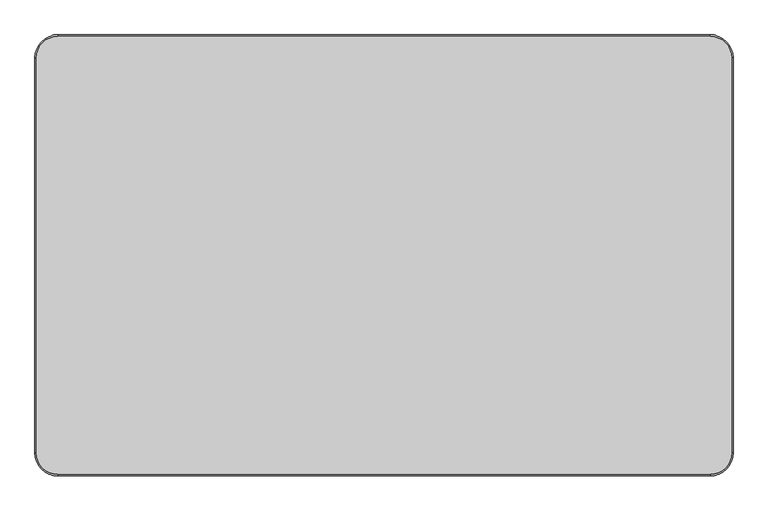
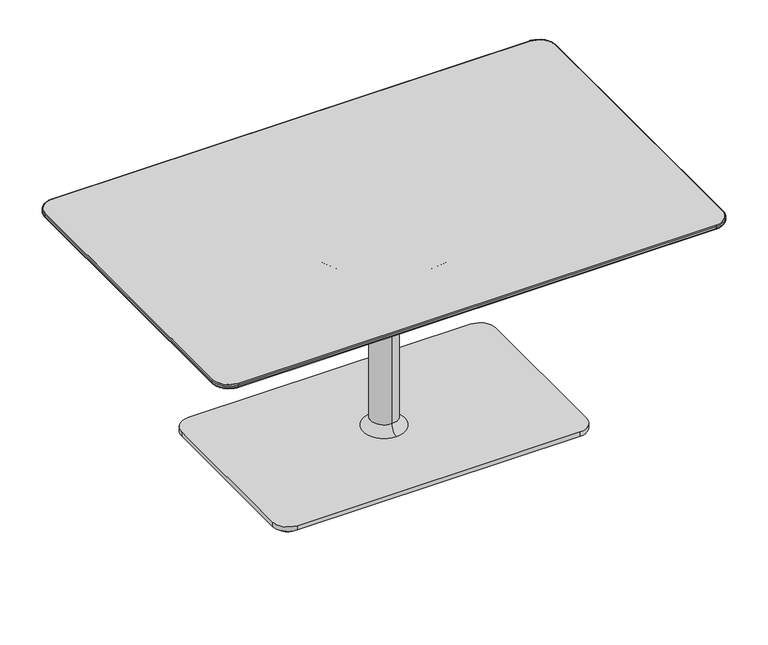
"""IFC4 building model written with IfcOpenShell, lengths in millimetres: furniture geometry, Coalesse_AM_Table_Occasional_Lagunitas_Work : 26H x 36D x 57W."""

from ifc_helpers import new_model, si_unit, point, frame, frame_2d, origin, origin_with_axes, place, context, project, spatial, polyline, circle_curve, ellipse_curve, trimmed, segment, composite_curve, outline, extrude, source, transform, mapped, element, save
from ifc_brep_helpers import plane_surface, cylinder_surface, revolved_surface, spline_surface, advanced_brep


def furniture_2e01fce7(model_context):
    return source(origin(), model_context, "Body", "SolidModel", [
        advanced_brep(
        [(721.1570059, 409.7063839, 648.3724172), (676.7070059, 454.1563839, 648.3724172), (-676.0969941, 454.1563839, 648.3724172), (-720.5469941, 409.7063839, 648.3724172), (-720.5469941, -409.7063839, 648.3724172), (-676.0969941, -454.1563839, 648.3724172), (676.7070059, -454.1563839, 648.3724172), (721.1570059, -409.7063839, 648.3724172), (653.3389826, 386.3390054, 630.3099277), (653.3389826, -386.3390054, 630.3099277), (-652.7289709, -386.3390054, 630.3099277), (-652.7289709, 386.3390054, 630.3099277)],
        [
            (0, 1, circle_curve(frame((676.7070059, 409.7063839, 648.3724172), z_axis=(0.0, 0.0, 1.0), x_axis=(1.0, 0.0, 0.0)), 44.45)),
            (1, 2),
            (2, 3, circle_curve(frame((-676.0969941, 409.7063839, 648.3724172), z_axis=(0.0, 0.0, 1.0), x_axis=(1.0, 0.0, 0.0)), 44.45)),
            (3, 4),
            (4, 5, circle_curve(frame((-676.0969941, -409.7063839, 648.3724172), z_axis=(0.0, 0.0, 1.0), x_axis=(1.0, 0.0, 0.0)), 44.45)),
            (5, 6),
            (6, 7, circle_curve(frame((676.7070059, -409.7063839, 648.3724172), z_axis=(0.0, 0.0, 1.0), x_axis=(1.0, 0.0, 0.0)), 44.45)),
            (7, 0),
            (8, 9),
            (9, 10),
            (10, 11),
            (11, 8),
            (0, 8),
            (8, 1),
            (11, 2),
            (11, 3),
            (10, 4),
            (10, 5),
            (9, 6),
            (9, 7),
        ],
        [
            plane_surface(frame((0.3050059, 0.0, 648.3724172), z_axis=(0.0, 0.0, 1.0), x_axis=(-1.0, 0.0, 0.0))),
            plane_surface(frame((0.3050059, 0.0, 630.3099277), z_axis=(0.0, 0.0, -1.0), x_axis=(-1.0, 0.0, 0.0))),
            spline_surface(2, 1, [[(653.3389826, 386.3390054, 630.3099277), (721.1570059, 409.7063839, 648.3724172)], [(653.3389826, 386.3390054, 630.3099277), (721.1570058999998, 454.1563838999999, 648.3724172)], [(653.3389826, 386.3390054, 630.3099277), (676.7070059, 454.1563839, 648.3724172)]], [3, 3], [2, 2], [0.0, 1.0], [0.0, 1.0], weights=[[1.0, 1.0], [0.707106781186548, 0.707106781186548], [1.0, 1.0]]),
            plane_surface(frame((0.3050059, 386.3390054, 630.3099277), z_axis=(0.0, 0.2573680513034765, -0.9663134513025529), x_axis=(-1.0, 0.0, 0.0))),
            spline_surface(2, 1, [[(-652.7289709, 386.3390054, 630.3099277), (-676.0969941, 454.1563839, 648.3724172)], [(-652.7289709, 386.3390054, 630.3099277), (-720.5469940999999, 454.1563838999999, 648.3724172)], [(-652.7289709, 386.3390054, 630.3099277), (-720.5469941, 409.7063839, 648.3724172)]], [3, 3], [2, 2], [0.0, 1.0], [0.0, 1.0], weights=[[1.0, 1.0], [0.707106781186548, 0.707106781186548], [1.0, 1.0]]),
            plane_surface(frame((-652.7289709, 0.0, 630.3099277), z_axis=(-0.2573657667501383, 0.0, -0.9663140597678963), x_axis=(0.0, -1.0, 0.0))),
            spline_surface(2, 1, [[(-652.7289709, -386.3390054, 630.3099277), (-720.5469941, -409.7063839, 648.3724172)], [(-652.7289709, -386.3390054, 630.3099277), (-720.5469941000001, -454.15638390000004, 648.3724172)], [(-652.7289709, -386.3390054, 630.3099277), (-676.0969941, -454.1563839, 648.3724172)]], [3, 3], [2, 2], [0.0, 1.0], [0.0, 1.0], weights=[[1.0, 1.0], [0.7071067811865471, 0.7071067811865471], [1.0, 1.0]]),
            plane_surface(frame((0.3050059, -386.3390054, 630.3099277), z_axis=(0.0, -0.2573680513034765, -0.9663134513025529), x_axis=(1.0, 0.0, 0.0))),
            spline_surface(2, 1, [[(653.3389826, -386.3390054, 630.3099277), (676.7070059, -454.1563839, 648.3724172)], [(653.3389826, -386.3390054, 630.3099277), (721.1570059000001, -454.15638390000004, 648.3724172)], [(653.3389826, -386.3390054, 630.3099277), (721.1570059, -409.7063839, 648.3724172)]], [3, 3], [2, 2], [0.0, 1.0], [0.0, 1.0], weights=[[1.0, 1.0], [0.707106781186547, 0.707106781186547], [1.0, 1.0]]),
            plane_surface(frame((653.3389826, 0.0, 630.3099277), z_axis=(0.2573657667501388, 0.0, -0.9663140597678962), x_axis=(0.0, 1.0, 0.0))),
        ],
        [
            (0, [[1, 2, 3, 4, 5, 6, 7, 8]]),
            (1, [[9, 10, 11, 12]]),
            (2, [[-1, 13, 14]]),
            (3, [[-12, 15, -2, -14]]),
            (4, [[-3, -15, 16]]),
            (5, [[-11, 17, -4, -16]]),
            (6, [[-5, -17, 18]]),
            (7, [[-10, 19, -6, -18]]),
            (8, [[-7, -19, 20]]),
            (9, [[-9, -13, -8, -20]]),
        ],
    ),
        extrude(outline(composite_curve([segment(trimmed(circle_curve(frame_2d((676.7070059, 409.7063839)), 44.45), [point((676.7070059, 454.1563839))], [point((721.1570059, 409.7063839))], False, "CARTESIAN"), True, "CONTINUOUS"), segment(polyline([(721.1570059, 409.7063839), (721.1570059, -409.7063839)]), True, "CONTINUOUS"), segment(trimmed(circle_curve(frame_2d((676.7070059, -409.7063839)), 44.45), [point((721.1570059, -409.7063839))], [point((676.7070059, -454.1563839))], False, "CARTESIAN"), True, "CONTINUOUS"), segment(polyline([(676.7070059, -454.1563839), (-676.0969941, -454.1563839)]), True, "CONTINUOUS"), segment(trimmed(circle_curve(frame_2d((-676.0969941, -409.7063839)), 44.45), [point((-676.0969941, -454.1563839))], [point((-720.5469941, -409.7063839))], False, "CARTESIAN"), True, "CONTINUOUS"), segment(polyline([(-720.5469941, -409.7063839), (-720.5469941, 409.7063839)]), True, "CONTINUOUS"), segment(trimmed(circle_curve(frame_2d((-676.0969941, 409.7063839)), 44.45), [point((-720.5469941, 409.7063839))], [point((-676.0969941, 454.1563839))], False, "CARTESIAN"), True, "CONTINUOUS"), segment(polyline([(-676.0969941, 454.1563839), (676.7070059, 454.1563839)]), True, "CONTINUOUS")], self_intersect=False)), frame((0.0, 0.0, 648.3724172), z_axis=(0.0, 0.0, 1.0), x_axis=(1.0, 0.0, 0.0)), (0.0, 0.0, 1.0), 12.0275828),
        extrude(outline(composite_curve([segment(trimmed(circle_curve(frame_2d((-404.2943146, 226.8029495)), 25.4), [point((-429.6943146, 226.8029495))], [point((-378.8943146, 226.8029495))], False, "CARTESIAN"), True, "CONTINUOUS"), segment(trimmed(circle_curve(frame_2d((-404.2943146, 226.8029495)), 25.4), [point((-378.8943146, 226.8029495))], [point((-429.6943146, 226.8029495))], False, "CARTESIAN"), True, "CONTINUOUS")], self_intersect=False)), origin_with_axes(), (0.0, 0.0, 1.0), 10.6571495),
        extrude(outline(composite_curve([segment(trimmed(circle_curve(frame_2d((404.9043263, 226.8029495)), 25.4), [point((379.5043263, 226.8029495))], [point((430.3043263, 226.8029495))], False, "CARTESIAN"), True, "CONTINUOUS"), segment(trimmed(circle_curve(frame_2d((404.9043263, 226.8029495)), 25.4), [point((430.3043263, 226.8029495))], [point((379.5043263, 226.8029495))], False, "CARTESIAN"), True, "CONTINUOUS")], self_intersect=False)), origin_with_axes(), (0.0, 0.0, 1.0), 10.6571495),
        extrude(outline(composite_curve([segment(trimmed(circle_curve(frame_2d((404.9043263, -226.8029495)), 25.4), [point((379.5043263, -226.8029495))], [point((430.3043263, -226.8029495))], False, "CARTESIAN"), True, "CONTINUOUS"), segment(trimmed(circle_curve(frame_2d((404.9043263, -226.8029495)), 25.4), [point((430.3043263, -226.8029495))], [point((379.5043263, -226.8029495))], False, "CARTESIAN"), True, "CONTINUOUS")], self_intersect=False)), origin_with_axes(), (0.0, 0.0, 1.0), 10.6571495),
        extrude(outline(composite_curve([segment(trimmed(circle_curve(frame_2d((-404.2943146, -226.8029495)), 25.4), [point((-429.6943146, -226.8029495))], [point((-378.8943146, -226.8029495))], False, "CARTESIAN"), True, "CONTINUOUS"), segment(trimmed(circle_curve(frame_2d((-404.2943146, -226.8029495)), 25.4), [point((-378.8943146, -226.8029495))], [point((-429.6943146, -226.8029495))], False, "CARTESIAN"), True, "CONTINUOUS")], self_intersect=False)), origin_with_axes(), (0.0, 0.0, 1.0), 10.6571495),
        extrude(outline(composite_curve([segment(trimmed(circle_curve(frame_2d((400.3550059, 222.2481833)), 44.45), [point((400.3550059, 266.6981833))], [point((444.8050059, 222.2481833))], False, "CARTESIAN"), True, "CONTINUOUS"), segment(polyline([(444.8050059, 222.2481833), (444.8050059, -222.2481833)]), True, "CONTINUOUS"), segment(trimmed(circle_curve(frame_2d((400.3550059, -222.2481833)), 44.45), [point((444.8050059, -222.2481833))], [point((400.3550059, -266.6981833))], False, "CARTESIAN"), True, "CONTINUOUS"), segment(polyline([(400.3550059, -266.6981833), (-399.7449941, -266.6981833)]), True, "CONTINUOUS"), segment(trimmed(circle_curve(frame_2d((-399.7449941, -222.2481833)), 44.45), [point((-399.7449941, -266.6981833))], [point((-444.1949941, -222.2481833))], False, "CARTESIAN"), True, "CONTINUOUS"), segment(polyline([(-444.1949941, -222.2481833), (-444.1949941, 222.2481833)]), True, "CONTINUOUS"), segment(trimmed(circle_curve(frame_2d((-399.7449941, 222.2481833)), 44.45), [point((-444.1949941, 222.2481833))], [point((-399.7449941, 266.6981833))], False, "CARTESIAN"), True, "CONTINUOUS"), segment(polyline([(-399.7449941, 266.6981833), (400.3550059, 266.6981833)]), True, "CONTINUOUS")], self_intersect=False)), frame((0.0, 0.0, 10.6571495), z_axis=(0.0, 0.0, 1.0), x_axis=(1.0, 0.0, 0.0)), (0.0, 0.0, 1.0), 12.7000004),
        advanced_brep(
        [(-723.5930954, 409.7063839, 652.1656816), (-676.0969941, 457.2024852, 652.1656816), (-676.0969941, 454.1563839, 648.3724172), (-720.5469941, 409.7063839, 648.3724172), (-723.5930954, 409.7063839, 657.3538988), (-676.0969941, 457.2024852, 657.3538988), (-720.5469941, 409.7063839, 660.4), (-676.0969941, 454.1563839, 660.4), (-720.5469941, -409.7063839, 648.3724172), (-723.5930954, -409.7063839, 652.1656816), (-723.5930954, -409.7063839, 657.3538988), (-720.5469941, -409.7063839, 660.4), (-676.0969941, -457.2024852, 652.1656816), (-676.0969941, -454.1563839, 648.3724172), (-676.0969941, -457.2024852, 657.3538988), (-676.0969941, -454.1563839, 660.4), (676.7070059, -454.1563839, 648.3724172), (676.7070059, -457.2024852, 652.1656816), (676.7070059, -457.2024852, 657.3538988), (676.7070059, -454.1563839, 660.4), (724.2031071, -409.7063839, 652.1656816), (721.1570059, -409.7063839, 648.3724172), (724.2031071, -409.7063839, 657.3538988), (721.1570059, -409.7063839, 660.4), (721.1570059, 409.7063839, 648.3724172), (724.2031071, 409.7063839, 652.1656816), (724.2031071, 409.7063839, 657.3538988), (721.1570059, 409.7063839, 660.4), (676.7070059, 457.2024852, 652.1656816), (676.7070059, 454.1563839, 648.3724172), (676.7070059, 457.2024852, 657.3538988), (676.7070059, 454.1563839, 660.4)],
        [
            (0, 1, circle_curve(frame((-676.0969941, 409.7063839, 652.1656816), z_axis=(0.0, 0.0, -1.0), x_axis=(0.0, 1.0, 0.0)), 47.4961012)),
            (1, 2, circle_curve(frame((-676.0969941, 453.3175869, 652.1656816), z_axis=(-1.0, 0.0, 0.0), x_axis=(0.0, -1.0, 0.0)), 3.8848983)),
            (2, 3, circle_curve(frame((-676.0969941, 409.7063839, 648.3724172), z_axis=(0.0, 0.0, 1.0), x_axis=(0.0, 1.0, 0.0)), 44.45)),
            (3, 0, circle_curve(frame((-719.7081971, 409.7063839, 652.1656816), z_axis=(0.0, 1.0, 0.0), x_axis=(1.0, 0.0, 0.0)), 3.8848983)),
            (4, 5, circle_curve(frame((-676.0969941, 409.7063839, 657.3538988), z_axis=(0.0, 0.0, -1.0), x_axis=(0.0, 1.0, 0.0)), 47.4961012)),
            (5, 1),
            (0, 4),
            (6, 7, circle_curve(frame((-676.0969941, 409.7063839, 660.4), z_axis=(0.0, 0.0, -1.0), x_axis=(0.0, 1.0, 0.0)), 44.45)),
            (7, 5, circle_curve(frame((-676.0969941, 454.1563839, 657.3538988), z_axis=(-1.0, 0.0, 0.0), x_axis=(0.0, -1.0, 0.0)), 3.0461012)),
            (4, 6, circle_curve(frame((-720.5469941, 409.7063839, 657.3538988), z_axis=(0.0, 1.0, 0.0), x_axis=(1.0, 0.0, 0.0)), 3.0461012)),
            (2, 7),
            (6, 3),
            (3, 8),
            (8, 9, circle_curve(frame((-719.7081971, -409.7063839, 652.1656816), z_axis=(0.0, 1.0, 0.0), x_axis=(1.0, 0.0, 0.0)), 3.8848983)),
            (9, 0),
            (9, 10),
            (10, 4),
            (10, 11, circle_curve(frame((-720.5469941, -409.7063839, 657.3538988), z_axis=(0.0, 1.0, 0.0), x_axis=(1.0, 0.0, 0.0)), 3.0461012)),
            (11, 6),
            (11, 8),
            (12, 9, circle_curve(frame((-676.0969941, -409.7063839, 652.1656816), z_axis=(0.0, 0.0, -1.0), x_axis=(-1.0, 0.0, 0.0)), 47.4961012)),
            (8, 13, circle_curve(frame((-676.0969941, -409.7063839, 648.3724172), z_axis=(0.0, 0.0, 1.0), x_axis=(-1.0, 0.0, 0.0)), 44.45)),
            (13, 12, circle_curve(frame((-676.0969941, -453.3175869, 652.1656816), z_axis=(-1.0, 0.0, 0.0), x_axis=(0.0, 1.0, 0.0)), 3.8848983)),
            (14, 10, circle_curve(frame((-676.0969941, -409.7063839, 657.3538988), z_axis=(0.0, 0.0, -1.0), x_axis=(-1.0, 0.0, 0.0)), 47.4961012)),
            (12, 14),
            (15, 11, circle_curve(frame((-676.0969941, -409.7063839, 660.4), z_axis=(0.0, 0.0, -1.0), x_axis=(-1.0, 0.0, 0.0)), 44.45)),
            (14, 15, circle_curve(frame((-676.0969941, -454.1563839, 657.3538988), z_axis=(-1.0, 0.0, 0.0), x_axis=(0.0, 1.0, 0.0)), 3.0461012)),
            (15, 13),
            (13, 16),
            (16, 17, circle_curve(frame((676.7070059, -453.3175869, 652.1656816), z_axis=(-1.0, 0.0, 0.0), x_axis=(0.0, 1.0, 0.0)), 3.8848983)),
            (17, 12),
            (17, 18),
            (18, 14),
            (18, 19, circle_curve(frame((676.7070059, -454.1563839, 657.3538988), z_axis=(-1.0, 0.0, 0.0), x_axis=(0.0, 1.0, 0.0)), 3.0461012)),
            (19, 15),
            (19, 16),
            (20, 17, circle_curve(frame((676.7070059, -409.7063839, 652.1656816), z_axis=(0.0, 0.0, -1.0), x_axis=(0.0, -1.0, 0.0)), 47.4961012)),
            (16, 21, circle_curve(frame((676.7070059, -409.7063839, 648.3724172), z_axis=(0.0, 0.0, 1.0), x_axis=(0.0, -1.0, 0.0)), 44.45)),
            (21, 20, circle_curve(frame((720.3182088, -409.7063839, 652.1656816), z_axis=(0.0, -1.0, 0.0), x_axis=(-1.0, 0.0, 0.0)), 3.8848983)),
            (22, 18, circle_curve(frame((676.7070059, -409.7063839, 657.3538988), z_axis=(0.0, 0.0, -1.0), x_axis=(0.0, -1.0, 0.0)), 47.4961012)),
            (20, 22),
            (23, 19, circle_curve(frame((676.7070059, -409.7063839, 660.4), z_axis=(0.0, 0.0, -1.0), x_axis=(0.0, -1.0, 0.0)), 44.45)),
            (22, 23, circle_curve(frame((721.1570059, -409.7063839, 657.3538988), z_axis=(0.0, -1.0, 0.0), x_axis=(-1.0, 0.0, 0.0)), 3.0461012)),
            (23, 21),
            (21, 24),
            (24, 25, circle_curve(frame((720.3182088, 409.7063839, 652.1656816), z_axis=(0.0, -1.0, 0.0), x_axis=(-1.0, 0.0, 0.0)), 3.8848983)),
            (25, 20),
            (25, 26),
            (26, 22),
            (26, 27, circle_curve(frame((721.1570059, 409.7063839, 657.3538988), z_axis=(0.0, -1.0, 0.0), x_axis=(-1.0, 0.0, 0.0)), 3.0461012)),
            (27, 23),
            (27, 24),
            (28, 25, circle_curve(frame((676.7070059, 409.7063839, 652.1656816), z_axis=(0.0, 0.0, -1.0), x_axis=(1.0, 0.0, 0.0)), 47.4961012)),
            (24, 29, circle_curve(frame((676.7070059, 409.7063839, 648.3724172), z_axis=(0.0, 0.0, 1.0), x_axis=(1.0, 0.0, 0.0)), 44.45)),
            (29, 28, circle_curve(frame((676.7070059, 453.3175869, 652.1656816), z_axis=(1.0, 0.0, 0.0), x_axis=(0.0, -1.0, 0.0)), 3.8848983)),
            (30, 26, circle_curve(frame((676.7070059, 409.7063839, 657.3538988), z_axis=(0.0, 0.0, -1.0), x_axis=(1.0, 0.0, 0.0)), 47.4961012)),
            (28, 30),
            (31, 27, circle_curve(frame((676.7070059, 409.7063839, 660.4), z_axis=(0.0, 0.0, -1.0), x_axis=(1.0, 0.0, 0.0)), 44.45)),
            (30, 31, circle_curve(frame((676.7070059, 454.1563839, 657.3538988), z_axis=(1.0, 0.0, 0.0), x_axis=(0.0, -1.0, 0.0)), 3.0461012)),
            (31, 29),
            (29, 2),
            (1, 28),
            (5, 30),
            (7, 31),
        ],
        [
            revolved_surface(trimmed(ellipse_curve(frame((-676.0969941, 453.3175869, 652.1656816), z_axis=(1.0, 0.0, 0.0), x_axis=(0.0, -1.0, 0.0)), 3.8848983, 3.8848983), [point((-676.0969941, 454.1563839, 648.3724172))], [point((-676.0969941, 457.2024852, 652.1656816))], True, "CARTESIAN"), (-676.0969941, 409.7063839, 0.0), (0.0, 0.0, 1.0)),
            cylinder_surface(frame((-676.0969941, 409.7063839, 0.0), z_axis=(0.0, 0.0, 1.0), x_axis=(0.0, 1.0, 0.0)), 47.4961012),
            revolved_surface(trimmed(ellipse_curve(frame((-676.0969941, 454.1563839, 657.3538988), z_axis=(1.0, 0.0, 0.0), x_axis=(0.0, -1.0, 0.0)), 3.0461012, 3.0461012), [point((-676.0969941, 457.2024852, 657.3538988))], [point((-676.0969941, 454.1563839, 660.4))], True, "CARTESIAN"), (-676.0969941, 409.7063839, 0.0), (0.0, 0.0, 1.0)),
            revolved_surface(polyline([(-676.0969941, 454.1563839, 660.4), (-676.0969941, 454.1563839, 648.3724172)]), (-676.0969941, 409.7063839, 0.0), (0.0, 0.0, 1.0)),
            cylinder_surface(frame((-719.7081971, 409.7063839, 652.1656816), z_axis=(0.0, 1.0, 0.0), x_axis=(1.0, 0.0, 0.0)), 3.8848983),
            plane_surface(frame((-723.5930954, 409.7063839, 652.1656816), z_axis=(-1.0, 0.0, 0.0), x_axis=(0.0, -1.0, 0.0))),
            cylinder_surface(frame((-720.5469941, 409.7063839, 657.3538988), z_axis=(0.0, 1.0, 0.0), x_axis=(1.0, 0.0, 0.0)), 3.0461012),
            plane_surface(frame((-720.5469941, 409.7063839, 660.4), z_axis=(1.0, 0.0, 0.0), x_axis=(0.0, -1.0, 0.0))),
            revolved_surface(trimmed(ellipse_curve(frame((-719.7081971, -409.7063839, 652.1656816), z_axis=(0.0, 1.0, 0.0), x_axis=(1.0, 0.0, 0.0)), 3.8848983, 3.8848983), [point((-720.5469941, -409.7063839, 648.3724172))], [point((-723.5930954, -409.7063839, 652.1656816))], True, "CARTESIAN"), (-676.0969941, -409.7063839, 0.0), (0.0, 0.0, 1.0)),
            cylinder_surface(frame((-676.0969941, -409.7063839, 0.0), z_axis=(0.0, 0.0, 1.0), x_axis=(-1.0, 0.0, 0.0)), 47.4961012),
            revolved_surface(trimmed(ellipse_curve(frame((-720.5469941, -409.7063839, 657.3538988), z_axis=(0.0, 1.0, 0.0), x_axis=(1.0, 0.0, 0.0)), 3.0461012, 3.0461012), [point((-723.5930954, -409.7063839, 657.3538988))], [point((-720.5469941, -409.7063839, 660.4))], True, "CARTESIAN"), (-676.0969941, -409.7063839, 0.0), (0.0, 0.0, 1.0)),
            revolved_surface(polyline([(-720.5469941, -409.7063839, 660.4), (-720.5469941, -409.7063839, 648.3724172)]), (-676.0969941, -409.7063839, 0.0), (0.0, 0.0, 1.0)),
            cylinder_surface(frame((-676.0969941, -453.3175869, 652.1656816), z_axis=(-1.0, 0.0, 0.0), x_axis=(0.0, 1.0, 0.0)), 3.8848983),
            plane_surface(frame((-676.0969941, -457.2024852, 652.1656816), z_axis=(0.0, -1.0, 0.0), x_axis=(1.0, 0.0, 0.0))),
            cylinder_surface(frame((-676.0969941, -454.1563839, 657.3538988), z_axis=(-1.0, 0.0, 0.0), x_axis=(0.0, 1.0, 0.0)), 3.0461012),
            plane_surface(frame((-676.0969941, -454.1563839, 660.4), z_axis=(0.0, 1.0, 0.0), x_axis=(1.0, 0.0, 0.0))),
            revolved_surface(trimmed(ellipse_curve(frame((676.7070059, -453.3175869, 652.1656816), z_axis=(-1.0, 0.0, 0.0), x_axis=(0.0, 1.0, 0.0)), 3.8848983, 3.8848983), [point((676.7070059, -454.1563839, 648.3724172))], [point((676.7070059, -457.2024852, 652.1656816))], True, "CARTESIAN"), (676.7070059, -409.7063839, 0.0), (0.0, 0.0, 1.0)),
            cylinder_surface(frame((676.7070059, -409.7063839, 0.0), z_axis=(0.0, 0.0, 1.0), x_axis=(0.0, -1.0, 0.0)), 47.4961012),
            revolved_surface(trimmed(ellipse_curve(frame((676.7070059, -454.1563839, 657.3538988), z_axis=(-1.0, 0.0, 0.0), x_axis=(0.0, 1.0, 0.0)), 3.0461012, 3.0461012), [point((676.7070059, -457.2024852, 657.3538988))], [point((676.7070059, -454.1563839, 660.4))], True, "CARTESIAN"), (676.7070059, -409.7063839, 0.0), (0.0, 0.0, 1.0)),
            revolved_surface(polyline([(676.7070059, -454.1563839, 660.4), (676.7070059, -454.1563839, 648.3724172)]), (676.7070059, -409.7063839, 0.0), (0.0, 0.0, 1.0)),
            cylinder_surface(frame((720.3182088, -409.7063839, 652.1656816), z_axis=(0.0, -1.0, 0.0), x_axis=(-1.0, 0.0, 0.0)), 3.8848983),
            plane_surface(frame((724.2031071, -409.7063839, 652.1656816), z_axis=(1.0, 0.0, 0.0), x_axis=(0.0, 1.0, 0.0))),
            cylinder_surface(frame((721.1570059, -409.7063839, 657.3538988), z_axis=(0.0, -1.0, 0.0), x_axis=(-1.0, 0.0, 0.0)), 3.0461012),
            plane_surface(frame((721.1570059, -409.7063839, 660.4), z_axis=(-1.0, 0.0, 0.0), x_axis=(0.0, 1.0, 0.0))),
            revolved_surface(trimmed(ellipse_curve(frame((720.3182088, 409.7063839, 652.1656816), z_axis=(0.0, -1.0, 0.0), x_axis=(-1.0, 0.0, 0.0)), 3.8848983, 3.8848983), [point((721.1570059, 409.7063839, 648.3724172))], [point((724.2031071, 409.7063839, 652.1656816))], True, "CARTESIAN"), (676.7070059, 409.7063839, 0.0), (0.0, 0.0, 1.0)),
            cylinder_surface(frame((676.7070059, 409.7063839, 0.0), z_axis=(0.0, 0.0, 1.0), x_axis=(1.0, 0.0, 0.0)), 47.4961012),
            revolved_surface(trimmed(ellipse_curve(frame((721.1570059, 409.7063839, 657.3538988), z_axis=(0.0, -1.0, 0.0), x_axis=(-1.0, 0.0, 0.0)), 3.0461012, 3.0461012), [point((724.2031071, 409.7063839, 657.3538988))], [point((721.1570059, 409.7063839, 660.4))], True, "CARTESIAN"), (676.7070059, 409.7063839, 0.0), (0.0, 0.0, 1.0)),
            revolved_surface(polyline([(721.1570059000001, 409.7063839, 660.4), (721.1570059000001, 409.7063839, 648.3724172)]), (676.7070059, 409.7063839, 0.0), (0.0, 0.0, 1.0)),
            cylinder_surface(frame((676.7070059, 453.3175869, 652.1656816), z_axis=(1.0, 0.0, 0.0), x_axis=(0.0, -1.0, 0.0)), 3.8848983),
            plane_surface(frame((676.7070059, 457.2024852, 652.1656816), z_axis=(0.0, 1.0, 0.0), x_axis=(-1.0, 0.0, 0.0))),
            cylinder_surface(frame((676.7070059, 454.1563839, 657.3538988), z_axis=(1.0, 0.0, 0.0), x_axis=(0.0, -1.0, 0.0)), 3.0461012),
            plane_surface(frame((676.7070059, 454.1563839, 660.4), z_axis=(0.0, -1.0, 0.0), x_axis=(-1.0, 0.0, 0.0))),
        ],
        [
            (0, [[1, 2, 3, 4]]),
            (1, [[5, 6, -1, 7]]),
            (2, [[8, 9, -5, 10]]),
            (3, [[-3, 11, -8, 12]]),
            (4, [[-4, 13, 14, 15]]),
            (5, [[-7, -15, 16, 17]]),
            (6, [[-10, -17, 18, 19]]),
            (7, [[-12, -19, 20, -13]]),
            (8, [[21, -14, 22, 23]]),
            (9, [[24, -16, -21, 25]]),
            (10, [[26, -18, -24, 27]]),
            (11, [[-22, -20, -26, 28]]),
            (12, [[-23, 29, 30, 31]]),
            (13, [[-25, -31, 32, 33]]),
            (14, [[-27, -33, 34, 35]]),
            (15, [[-28, -35, 36, -29]]),
            (16, [[37, -30, 38, 39]]),
            (17, [[40, -32, -37, 41]]),
            (18, [[42, -34, -40, 43]]),
            (19, [[-38, -36, -42, 44]]),
            (20, [[-39, 45, 46, 47]]),
            (21, [[-41, -47, 48, 49]]),
            (22, [[-43, -49, 50, 51]]),
            (23, [[-44, -51, 52, -45]]),
            (24, [[53, -46, 54, 55]]),
            (25, [[56, -48, -53, 57]]),
            (26, [[58, -50, -56, 59]]),
            (27, [[-54, -52, -58, 60]]),
            (28, [[-55, 61, -2, 62]]),
            (29, [[-57, -62, -6, 63]]),
            (30, [[-59, -63, -9, 64]]),
            (31, [[-60, -64, -11, -61]]),
        ],
    ),
        advanced_brep(
        [(0.3050059, -37.9287895, 500.8567695), (0.3050059, 37.9287895, 500.8567695), (0.3050059, 37.9287895, 50.0429711), (0.3050059, -37.9287895, 50.0429711), (0.3050059, -59.3395816, 538.8698908), (0.3050059, 59.3395816, 538.8698908), (0.3050059, -197.9068019, 622.8534968), (0.3050059, 197.9068019, 622.8534968), (0.3050059, -212.4265152, 626.9101307), (0.3050059, 212.4265152, 626.9101307), (0.3050059, -226.4292749, 626.9101307), (0.3050059, 226.4292749, 626.9101307), (0.3050059, -228.4774392, 630.3099277), (0.3050059, 228.4774392, 630.3099277), (0.3050059, 0.0, 630.3099277), (0.3050059, -60.2304855, 23.3571499), (0.3050059, 60.2304855, 23.3571499), (0.3050059, 0.0, 23.3571499)],
        [
            (0, 1, circle_curve(frame((0.3050059, 0.0, 500.8567695), z_axis=(0.0, 0.0, -1.0), x_axis=(0.0, 1.0, 0.0)), 37.9287895)),
            (1, 2),
            (2, 3, circle_curve(frame((0.3050059, 0.0, 50.0429711), z_axis=(0.0, 0.0, 1.0), x_axis=(0.0, 1.0, 0.0)), 37.9287895)),
            (3, 0),
            (1, 0, circle_curve(frame((0.3050059, 0.0, 500.8567695), z_axis=(0.0, 0.0, -1.0), x_axis=(0.0, 1.0, 0.0)), 37.9287895)),
            (3, 2, circle_curve(frame((0.3050059, 0.0, 50.0429711), z_axis=(0.0, 0.0, 1.0), x_axis=(0.0, 1.0, 0.0)), 37.9287895)),
            (4, 5, circle_curve(frame((0.3050059, 0.0, 538.8698908), z_axis=(0.0, 0.0, -1.0), x_axis=(0.0, 1.0, 0.0)), 59.3395816)),
            (5, 1, circle_curve(frame((0.3050059, 82.3787895, 500.8567695), z_axis=(1.0, 0.0, 0.0), x_axis=(0.0, 1.0, 0.0)), 44.45)),
            (0, 4, circle_curve(frame((0.3050059, -82.3787895, 500.8567695), z_axis=(1.0, 0.0, 0.0), x_axis=(0.0, -1.0, 0.0)), 44.45)),
            (5, 4, circle_curve(frame((0.3050059, 0.0, 538.8698908), z_axis=(0.0, 0.0, -1.0), x_axis=(0.0, 1.0, 0.0)), 59.3395816)),
            (6, 7, circle_curve(frame((0.3050059, 0.0, 622.8534968), z_axis=(0.0, 0.0, -1.0), x_axis=(0.0, 1.0, 0.0)), 197.9068019)),
            (7, 5),
            (4, 6),
            (7, 6, circle_curve(frame((0.3050059, 0.0, 622.8534968), z_axis=(0.0, 0.0, -1.0), x_axis=(0.0, 1.0, 0.0)), 197.9068019)),
            (8, 9, circle_curve(frame((0.3050059, 0.0, 626.9101307), z_axis=(0.0, 0.0, -1.0), x_axis=(0.0, 1.0, 0.0)), 212.4265152)),
            (9, 7, circle_curve(frame((0.3050059, 212.4265152, 598.8969605), z_axis=(1.0, 0.0, 0.0), x_axis=(0.0, 1.0, 0.0)), 28.0131702)),
            (6, 8, circle_curve(frame((0.3050059, -212.4265152, 598.8969605), z_axis=(1.0, 0.0, 0.0), x_axis=(0.0, -1.0, 0.0)), 28.0131702)),
            (9, 8, circle_curve(frame((0.3050059, 0.0, 626.9101307), z_axis=(0.0, 0.0, -1.0), x_axis=(0.0, 1.0, 0.0)), 212.4265152)),
            (10, 11, circle_curve(frame((0.3050059, 0.0, 626.9101307), z_axis=(0.0, 0.0, -1.0), x_axis=(0.0, 1.0, 0.0)), 226.4292749)),
            (11, 9),
            (8, 10),
            (11, 10, circle_curve(frame((0.3050059, 0.0, 626.9101307), z_axis=(0.0, 0.0, -1.0), x_axis=(0.0, 1.0, 0.0)), 226.4292749)),
            (12, 13, circle_curve(frame((0.3050059, 0.0, 630.3099277), z_axis=(0.0, 0.0, -1.0), x_axis=(0.0, 1.0, 0.0)), 228.4774392)),
            (13, 11, circle_curve(frame((0.3050059, 226.4292749, 629.2269744), z_axis=(-1.0, 0.0, 0.0), x_axis=(0.0, 1.0, 0.0)), 2.3168437)),
            (10, 12, circle_curve(frame((0.3050059, -226.4292749, 629.2269744), z_axis=(-1.0, 0.0, 0.0), x_axis=(0.0, -1.0, 0.0)), 2.3168437)),
            (13, 12, circle_curve(frame((0.3050059, 0.0, 630.3099277), z_axis=(0.0, 0.0, -1.0), x_axis=(0.0, 1.0, 0.0)), 228.4774392)),
            (14, 13),
            (12, 14),
            (15, 16, circle_curve(frame((0.3050059, 0.0, 23.3571499), z_axis=(0.0, 0.0, -1.0), x_axis=(0.0, 1.0, 0.0)), 60.2304855)),
            (16, 17),
            (17, 15),
            (16, 15, circle_curve(frame((0.3050059, 0.0, 23.3571499), z_axis=(0.0, 0.0, -1.0), x_axis=(0.0, 1.0, 0.0)), 60.2304855)),
            (2, 16, circle_curve(frame((0.3050059, 65.045532, 50.0429711), z_axis=(1.0, 0.0, 0.0), x_axis=(0.0, 1.0, 0.0)), 27.1167425)),
            (15, 3, circle_curve(frame((0.3050059, -65.045532, 50.0429711), z_axis=(1.0, 0.0, 0.0), x_axis=(0.0, -1.0, 0.0)), 27.1167425)),
        ],
        [
            cylinder_surface(frame((0.3050059, 0.0, 738.2745102), z_axis=(0.0, 0.0, 1.0), x_axis=(0.0, 1.0, 0.0)), 37.9287895),
            revolved_surface(trimmed(ellipse_curve(frame((0.3050059, 82.3787895, 500.8567695), z_axis=(-1.0, 0.0, 0.0), x_axis=(0.0, 1.0, 0.0)), 44.45, 44.45), [point((0.3050059, 37.9287895, 500.8567695))], [point((0.3050059, 59.3395816, 538.8698908))], True, "CARTESIAN"), (0.3050059, 0.0, 738.2745102), (0.0, 0.0, 1.0)),
            revolved_surface(polyline([(0.3050059, 59.3395816, 538.8698908), (0.3050059, 197.9068019, 622.8534968)]), (0.3050059, 0.0, 738.2745102), (0.0, 0.0, 1.0)),
            revolved_surface(trimmed(ellipse_curve(frame((0.3050059, 212.4265152, 598.8969605), z_axis=(-1.0, 0.0, 0.0), x_axis=(0.0, 1.0, 0.0)), 28.0131702, 28.0131702), [point((0.3050059, 197.9068019, 622.8534968))], [point((0.3050059, 212.4265152, 626.9101307))], True, "CARTESIAN"), (0.3050059, 0.0, 738.2745102), (0.0, 0.0, 1.0)),
            plane_surface(frame((0.3050059, 0.0, 626.9101307), z_axis=(0.0, 0.0, -1.0), x_axis=(0.0, 1.0, 0.0))),
            revolved_surface(trimmed(ellipse_curve(frame((0.3050059, 226.4292749, 629.2269744), z_axis=(1.0, 0.0, 0.0), x_axis=(0.0, 1.0, 0.0)), 2.3168437, 2.3168437), [point((0.3050059, 226.4292749, 626.9101307))], [point((0.3050059, 228.4774392, 630.3099277))], True, "CARTESIAN"), (0.3050059, 0.0, 738.2745102), (0.0, 0.0, 1.0)),
            plane_surface(frame((0.3050059, 0.0, 630.3099277), z_axis=(0.0, 0.0, 1.0), x_axis=(0.0, 1.0, 0.0))),
            plane_surface(frame((0.3050059, 0.0, 23.3571499), z_axis=(0.0, 0.0, -1.0), x_axis=(0.0, 1.0, 0.0))),
            revolved_surface(trimmed(ellipse_curve(frame((0.3050059, 65.045532, 50.0429711), z_axis=(-1.0, 0.0, 0.0), x_axis=(0.0, 1.0, 0.0)), 27.1167425, 27.1167425), [point((0.3050059, 60.2304855, 23.3571499))], [point((0.3050059, 37.9287895, 50.0429711))], True, "CARTESIAN"), (0.3050059, 0.0, 738.2745102), (0.0, 0.0, 1.0)),
        ],
        [
            (0, [[1, 2, 3, 4]]),
            (0, [[5, -4, 6, -2]]),
            (1, [[7, 8, -1, 9]]),
            (1, [[10, -9, -5, -8]]),
            (2, [[11, 12, -7, 13]]),
            (2, [[14, -13, -10, -12]]),
            (3, [[15, 16, -11, 17]]),
            (3, [[18, -17, -14, -16]]),
            (4, [[19, 20, -15, 21]]),
            (4, [[22, -21, -18, -20]]),
            (5, [[23, 24, -19, 25]]),
            (5, [[26, -25, -22, -24]]),
            (6, [[27, -23, 28]]),
            (6, [[-28, -26, -27]]),
            (7, [[29, 30, 31]]),
            (7, [[32, -31, -30]]),
            (8, [[-3, 33, -29, 34]]),
            (8, [[-6, -34, -32, -33]]),
        ],
    ),
    ])


if __name__ == "__main__":
    model = new_model("IFC4")
    model_context = context("Model", 3, world=origin())
    ifc_project = project(units=[si_unit("LENGTHUNIT", "METRE", prefix="MILLI")], contexts=[model_context])
    site = spatial("IfcSite", under=ifc_project)
    building = spatial("IfcBuilding", under=site)
    placement = place(None, origin())
    furniture_shape = furniture_2e01fce7(model_context)
    element("IfcFurniture", 1, ObjectType="Coalesse_AM_Table_Occasional_Lagunitas_Work : 26H x 36D x 57W", at=placement, inside=building, context=model_context, shape_type="MappedRepresentation", body=[
        mapped(furniture_shape, transform((0.0, 0.0, 0.0), x_axis=(1.0, 0.0, 0.0), y_axis=(0.0, 1.0, 0.0), z_axis=(0.0, 0.0, 1.0))),
    ])
    save(model, "model.ifc")
